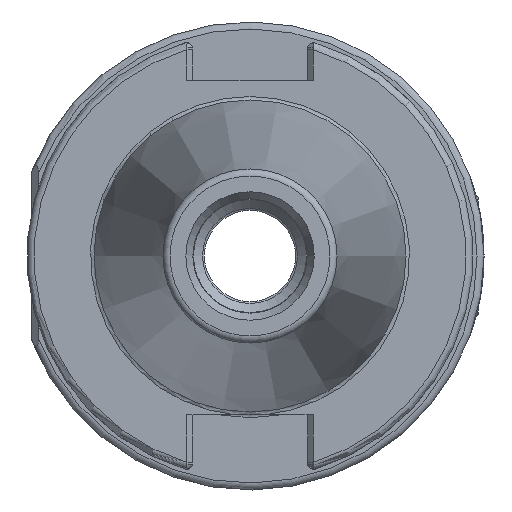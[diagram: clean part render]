
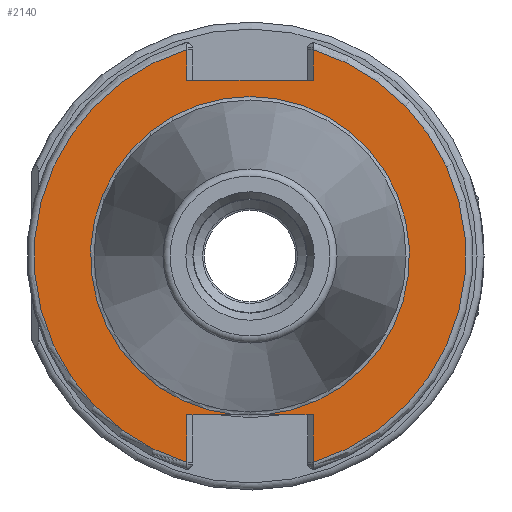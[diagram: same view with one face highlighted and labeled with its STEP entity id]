
A CAD part, left-side view. The second image highlights one B-rep face of the part: STEP entity #2140.
In plain terms, the highlighted planar face has unit normal (-1, 0, 0).
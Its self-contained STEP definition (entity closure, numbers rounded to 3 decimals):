
#176=CIRCLE('',#2369,30.75);
#177=CIRCLE('',#2371,22.725);
#178=CIRCLE('',#2372,22.725);
#179=CIRCLE('',#2373,30.75);
#291=FACE_OUTER_BOUND('',#428,.T.);
#428=EDGE_LOOP('',(#1615,#1616,#1617,#1618,#1619,#1620,#1621,#1622,#1623,
#1624,#1625));
#540=LINE('',#3455,#676);
#555=LINE('',#3573,#691);
#557=LINE('',#3651,#693);
#558=LINE('',#3657,#694);
#559=LINE('',#3659,#695);
#560=LINE('',#3662,#696);
#561=LINE('',#3663,#697);
#676=VECTOR('',#2683,10.);
#691=VECTOR('',#2704,10.);
#693=VECTOR('',#2726,10.);
#694=VECTOR('',#2731,10.);
#695=VECTOR('',#2732,10.);
#696=VECTOR('',#2735,10.);
#697=VECTOR('',#2736,10.);
#915=VERTEX_POINT('',#3453);
#916=VERTEX_POINT('',#3454);
#930=VERTEX_POINT('',#3566);
#933=VERTEX_POINT('',#3571);
#940=VERTEX_POINT('',#3630);
#942=VERTEX_POINT('',#3650);
#943=VERTEX_POINT('',#3652);
#944=VERTEX_POINT('',#3654);
#945=VERTEX_POINT('',#3656);
#946=VERTEX_POINT('',#3658);
#947=VERTEX_POINT('',#3660);
#1156=EDGE_CURVE('',#915,#916,#540,.T.);
#1175=EDGE_CURVE('',#933,#930,#555,.T.);
#1187=EDGE_CURVE('',#930,#940,#176,.T.);
#1190=EDGE_CURVE('',#933,#942,#557,.T.);
#1191=EDGE_CURVE('',#942,#943,#177,.T.);
#1192=EDGE_CURVE('',#943,#944,#178,.T.);
#1193=EDGE_CURVE('',#944,#945,#558,.T.);
#1194=EDGE_CURVE('',#946,#945,#559,.T.);
#1195=EDGE_CURVE('',#947,#946,#179,.T.);
#1196=EDGE_CURVE('',#915,#947,#560,.T.);
#1197=EDGE_CURVE('',#940,#916,#561,.T.);
#1615=ORIENTED_EDGE('',*,*,#1175,.F.);
#1616=ORIENTED_EDGE('',*,*,#1190,.T.);
#1617=ORIENTED_EDGE('',*,*,#1191,.T.);
#1618=ORIENTED_EDGE('',*,*,#1192,.T.);
#1619=ORIENTED_EDGE('',*,*,#1193,.T.);
#1620=ORIENTED_EDGE('',*,*,#1194,.F.);
#1621=ORIENTED_EDGE('',*,*,#1195,.F.);
#1622=ORIENTED_EDGE('',*,*,#1196,.F.);
#1623=ORIENTED_EDGE('',*,*,#1156,.T.);
#1624=ORIENTED_EDGE('',*,*,#1197,.F.);
#1625=ORIENTED_EDGE('',*,*,#1187,.F.);
#2060=PLANE('',#2370);
#2140=ADVANCED_FACE('',(#291),#2060,.T.);
#2369=AXIS2_PLACEMENT_3D('',#3631,#2722,#2723);
#2370=AXIS2_PLACEMENT_3D('',#3649,#2724,#2725);
#2371=AXIS2_PLACEMENT_3D('',#3653,#2727,#2728);
#2372=AXIS2_PLACEMENT_3D('',#3655,#2729,#2730);
#2373=AXIS2_PLACEMENT_3D('',#3661,#2733,#2734);
#2683=DIRECTION('',(0.,1.,0.));
#2704=DIRECTION('',(0.,0.,-1.));
#2722=DIRECTION('center_axis',(1.,0.,0.));
#2723=DIRECTION('ref_axis',(0.,0.,-1.));
#2724=DIRECTION('center_axis',(-1.,0.,0.));
#2725=DIRECTION('ref_axis',(0.,0.,1.));
#2726=DIRECTION('',(0.,-1.,0.));
#2727=DIRECTION('center_axis',(1.,0.,0.));
#2728=DIRECTION('ref_axis',(0.,0.,-1.));
#2729=DIRECTION('center_axis',(1.,0.,0.));
#2730=DIRECTION('ref_axis',(0.,0.,-1.));
#2731=DIRECTION('',(0.,-1.,0.));
#2732=DIRECTION('',(0.,0.,1.));
#2733=DIRECTION('center_axis',(1.,0.,0.));
#2734=DIRECTION('ref_axis',(0.,0.,-1.));
#2735=DIRECTION('',(0.,0.,1.));
#2736=DIRECTION('',(0.,0.,-1.));
#3453=CARTESIAN_POINT('',(3.175,-8.992,25.019));
#3454=CARTESIAN_POINT('',(3.175,8.992,25.019));
#3455=CARTESIAN_POINT('',(3.175,19.471,25.019));
#3566=CARTESIAN_POINT('',(3.175,8.992,-29.406));
#3571=CARTESIAN_POINT('',(3.175,8.992,-22.606));
#3573=CARTESIAN_POINT('',(3.175,8.992,-11.303));
#3630=CARTESIAN_POINT('',(3.175,8.992,29.406));
#3631=CARTESIAN_POINT('Origin',(3.175,0.,0.));
#3649=CARTESIAN_POINT('Origin',(3.175,30.75,0.));
#3650=CARTESIAN_POINT('',(3.175,2.323,-22.606));
#3651=CARTESIAN_POINT('',(3.175,11.279,-22.606));
#3652=CARTESIAN_POINT('',(3.175,0.,22.725));
#3653=CARTESIAN_POINT('Origin',(3.175,0.,0.));
#3654=CARTESIAN_POINT('',(3.175,-2.323,-22.606));
#3655=CARTESIAN_POINT('Origin',(3.175,0.,0.));
#3656=CARTESIAN_POINT('',(3.175,-8.991,-22.606));
#3657=CARTESIAN_POINT('',(3.175,11.279,-22.606));
#3658=CARTESIAN_POINT('',(3.175,-8.991,-29.406));
#3659=CARTESIAN_POINT('',(3.175,-8.991,-17.303));
#3660=CARTESIAN_POINT('',(3.175,-8.992,29.406));
#3661=CARTESIAN_POINT('Origin',(3.175,0.,0.));
#3662=CARTESIAN_POINT('',(3.175,-8.992,12.51));
#3663=CARTESIAN_POINT('',(3.175,8.992,17.51));
